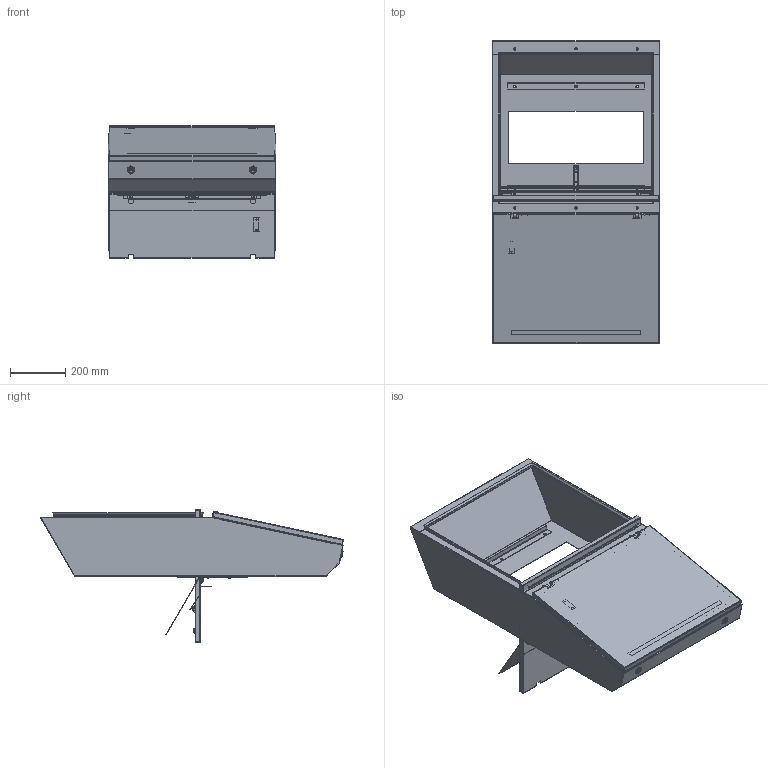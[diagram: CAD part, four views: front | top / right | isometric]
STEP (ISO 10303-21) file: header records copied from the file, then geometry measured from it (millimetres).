
FILE_DESCRIPTION( ( 'Unknown' ), '1' );
FILE_NAME( 'Q:/2000 SERIES/DESK UNITS/WEB DRAWINGS/STEP/2CSD82443.stp', 'Unknown', ( 'Unknown' ), ( 'Unknown' ), 'XStep 1.0', 'Unknown', ' ' );
FILE_SCHEMA( ( 'CONFIG_CONTROL_DESIGN' ) );
Length unit declared in the file: millimetre
Products named in the file (32): Assem1; Assem2; Assem3; Assem4; Assem5; Assem6; Assem7; Assem8; Assem9; 1; 2; 3; 4; 5; 6; 7; 8; 9; 10; 11; 12; 13; 14; 15; 16; 17; 18; 19; 20; 21; 22; 23
Bounding box: 609.6 x 1099.94 x 482.6 mm (x, y, z)
Volume: 9633630.5 mm3; surface area: 10540615.5 mm2
Topology: 100 solids, 100 shells, 2446 faces, 6046 edges, 3893 vertices
Faces by surface type: plane 1623, cylinder 663, bspline 80, cone 41, torus 33, sphere 6
Full cylindrical faces by diameter (mm): 3.175 x12, 4.648 x7, 4.763 x12, 4.801 x8, 5 x8, 5.537 x22, 5.969 x4, 6 x4, 6.096 x4, 6.299 x4, 6.35 x15, 7.137 x15, 7.925 x4, 7.938 x6, 8.331 x4, 9.804 x11, 9.83 x8, 9.931 x7, 10.312 x4, 11.1 x4, 12.7 x14, 12.751 x4, 13.335 x4, 15.875 x4, 16.002 x4, 17.45 x4, 19.5 x4, 19.939 x4, 25.4 x4
Entity records: 22695 total; most frequent: CARTESIAN_POINT 4992, DIRECTION 3325, ORIENTED_EDGE 3268, EDGE_CURVE 1634, LINE 1187, VECTOR 1187, VERTEX_POINT 1080, AXIS2_PLACEMENT_3D 1069
